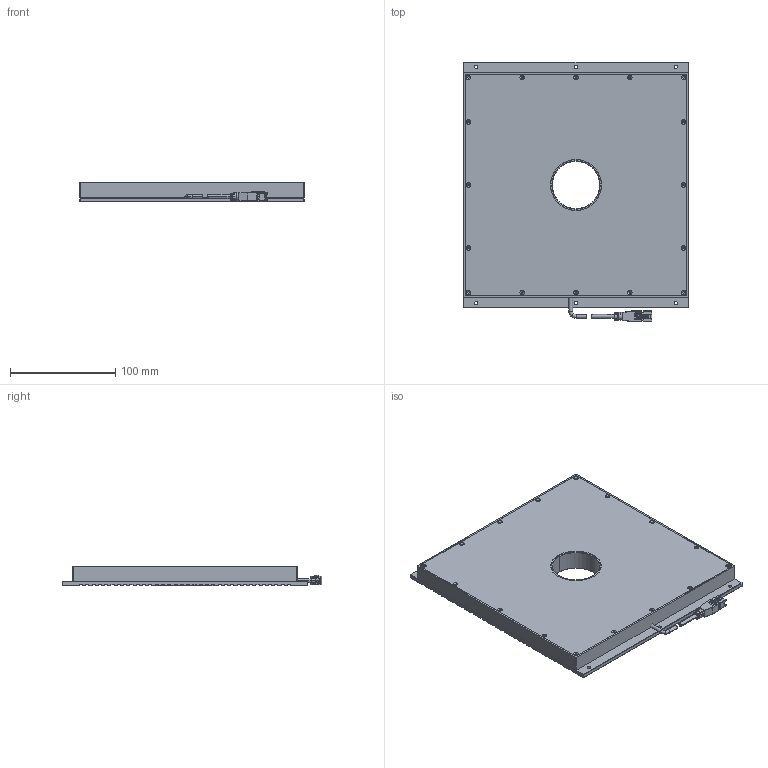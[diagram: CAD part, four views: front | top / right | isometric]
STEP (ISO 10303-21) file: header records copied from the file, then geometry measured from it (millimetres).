
FILE_DESCRIPTION((''),'2;1');
FILE_NAME('ASM0001_ASM','2021-04-09T18:57:50',('RD01'),(''),'CREO PARAMETRIC BY PTC INC, 2020053','CREO PARAMETRIC BY PTC INC, 2020053','');
FILE_SCHEMA(('CONFIG_CONTROL_DESIGN'));
Length unit declared in the file: millimetre
Products named in the file (10): PRT0002; PRT0001; PMMA; PCBA; PRT0003; LINE_TOU_1; BODY_12_1; XIANLAN-_ASM_1_ASM; P-FSL-116_ASM_1_ASM; ASM0001_ASM
Assembly tree (9 placements, depth 4):
  ASM0001_ASM
    PRT0002
    PRT0001
    PMMA
    PCBA
    PRT0003
    P-FSL-116_ASM_1_ASM
      XIANLAN-_ASM_1_ASM
        LINE_TOU_1
        BODY_12_1
Bounding box: 214 x 247.25 x 19 mm (x, y, z)
Volume: 378710.9 mm3; surface area: 488180.1 mm2
Topology: 7 solids, 116 shells, 1035 faces, 3462 edges, 2566 vertices
Faces by surface type: plane 636, cylinder 316, cone 53, torus 14, bspline 8, sphere 8
Entity records: 38912 total; most frequent: CARTESIAN_POINT 7538, DIRECTION 6685, ORIENTED_EDGE 5879, EDGE_CURVE 3454, VERTEX_POINT 2566, AXIS2_PLACEMENT_3D 2246, VECTOR 2193, LINE 2193
